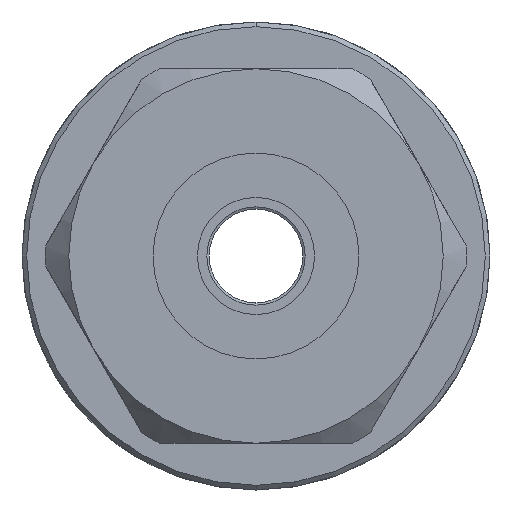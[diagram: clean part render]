
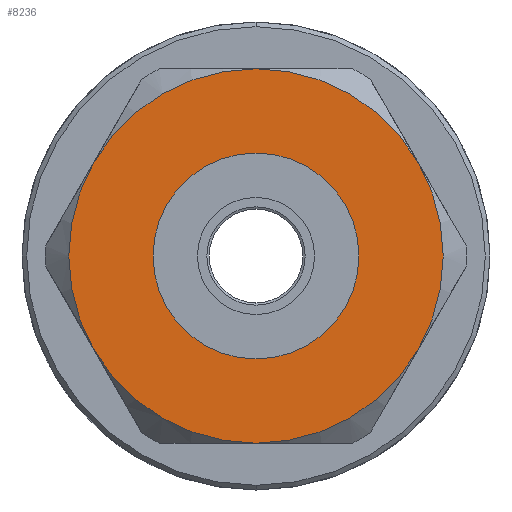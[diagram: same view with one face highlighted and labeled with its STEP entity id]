
A CAD part, front view. The second image highlights one B-rep face of the part: STEP entity #8236.
In plain terms, the highlighted planar face has unit normal (0, -1, 0).
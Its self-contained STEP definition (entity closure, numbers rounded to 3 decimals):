
#171 = CIRCLE ( 'NONE', #16684, 8. ) ;
#236 = DIRECTION ( 'NONE',  ( 0., -1., 0. ) ) ;
#291 = ORIENTED_EDGE ( 'NONE', *, *, #15133, .T. ) ;
#681 = CIRCLE ( 'NONE', #9216, 8. ) ;
#872 = DIRECTION ( 'NONE',  ( 0., 0., 1. ) ) ;
#1163 = DIRECTION ( 'NONE',  ( 0., 0., 1. ) ) ;
#1170 = FACE_OUTER_BOUND ( 'NONE', #14504, .T. ) ;
#1260 = CARTESIAN_POINT ( 'NONE',  ( -5.282, -46.88, 50. ) ) ;
#1342 = CIRCLE ( 'NONE', #10341, 8. ) ;
#1483 = EDGE_CURVE ( 'NONE', #13986, #3708, #13535, .T. ) ;
#1577 = CARTESIAN_POINT ( 'NONE',  ( -5.282, -46.88, 50. ) ) ;
#2470 = AXIS2_PLACEMENT_3D ( 'NONE', #1260, #10452, #2579 ) ;
#2579 = DIRECTION ( 'NONE',  ( -1., 0., 0. ) ) ;
#2887 = DIRECTION ( 'NONE',  ( 0., 0., 1. ) ) ;
#2897 = EDGE_CURVE ( 'NONE', #8539, #12407, #1342, .T. ) ;
#3283 = ORIENTED_EDGE ( 'NONE', *, *, #1483, .T. ) ;
#3318 = EDGE_CURVE ( 'NONE', #3708, #6361, #681, .T. ) ;
#3543 = DIRECTION ( 'NONE',  ( 0., -1., 0. ) ) ;
#3708 = VERTEX_POINT ( 'NONE', #15541 ) ;
#3734 = CIRCLE ( 'NONE', #8689, 8. ) ;
#4257 = AXIS2_PLACEMENT_3D ( 'NONE', #1577, #10759, #2887 ) ;
#5485 = EDGE_CURVE ( 'NONE', #10664, #6758, #15739, .T. ) ;
#5500 = CARTESIAN_POINT ( 'NONE',  ( -5.282, -46.88, 50. ) ) ;
#5610 = CARTESIAN_POINT ( 'NONE',  ( -0.882, -46.88, 50. ) ) ;
#5822 = CARTESIAN_POINT ( 'NONE',  ( -5.282, -46.88, 42. ) ) ;
#5908 = CARTESIAN_POINT ( 'NONE',  ( 1.647, -46.88, 54. ) ) ;
#6068 = DIRECTION ( 'NONE',  ( 0., -1., 0. ) ) ;
#6361 = VERTEX_POINT ( 'NONE', #12790 ) ;
#6421 = AXIS2_PLACEMENT_3D ( 'NONE', #7864, #17062, #9173 ) ;
#6439 = CARTESIAN_POINT ( 'NONE',  ( -5.282, -46.88, 58. ) ) ;
#6520 = ORIENTED_EDGE ( 'NONE', *, *, #2897, .T. ) ;
#6758 = VERTEX_POINT ( 'NONE', #5610 ) ;
#6760 = CIRCLE ( 'NONE', #2470, 4.4 ) ;
#6833 = DIRECTION ( 'NONE',  ( 0., 0., 1. ) ) ;
#7382 = EDGE_CURVE ( 'NONE', #6758, #10664, #6760, .T. ) ;
#7718 = CIRCLE ( 'NONE', #13903, 8. ) ;
#7781 = CARTESIAN_POINT ( 'NONE',  ( -9.682, -46.88, 50. ) ) ;
#7864 = CARTESIAN_POINT ( 'NONE',  ( -5.282, -46.88, 50. ) ) ;
#8109 = CARTESIAN_POINT ( 'NONE',  ( -5.282, -46.88, 50. ) ) ;
#8236 = ADVANCED_FACE ( 'NONE', ( #14765, #1170 ), #16610, .T. ) ;
#8539 = VERTEX_POINT ( 'NONE', #5822 ) ;
#8689 = AXIS2_PLACEMENT_3D ( 'NONE', #13973, #6068, #15280 ) ;
#8723 = DIRECTION ( 'NONE',  ( 0., -1., 0. ) ) ;
#9030 = DIRECTION ( 'NONE',  ( 0., -1., 0. ) ) ;
#9171 = EDGE_CURVE ( 'NONE', #13238, #13986, #7718, .T. ) ;
#9173 = DIRECTION ( 'NONE',  ( -1., 0., 0. ) ) ;
#9216 = AXIS2_PLACEMENT_3D ( 'NONE', #5500, #14732, #6833 ) ;
#9427 = DIRECTION ( 'NONE',  ( 0., 0., 1. ) ) ;
#10341 = AXIS2_PLACEMENT_3D ( 'NONE', #16635, #8723, #872 ) ;
#10452 = DIRECTION ( 'NONE',  ( 0., 1., 0. ) ) ;
#10453 = EDGE_LOOP ( 'NONE', ( #13285, #14046 ) ) ;
#10664 = VERTEX_POINT ( 'NONE', #7781 ) ;
#10759 = DIRECTION ( 'NONE',  ( 0., -1., 0. ) ) ;
#11332 = CARTESIAN_POINT ( 'NONE',  ( 1.647, -46.88, 46. ) ) ;
#11418 = CARTESIAN_POINT ( 'NONE',  ( -13.378, -46.88, 58.096 ) ) ;
#11652 = ORIENTED_EDGE ( 'NONE', *, *, #3318, .T. ) ;
#12407 = VERTEX_POINT ( 'NONE', #11332 ) ;
#12759 = DIRECTION ( 'NONE',  ( 0., 0., -1. ) ) ;
#12790 = CARTESIAN_POINT ( 'NONE',  ( -12.21, -46.88, 46. ) ) ;
#13238 = VERTEX_POINT ( 'NONE', #5908 ) ;
#13285 = ORIENTED_EDGE ( 'NONE', *, *, #5485, .T. ) ;
#13398 = ORIENTED_EDGE ( 'NONE', *, *, #13593, .T. ) ;
#13535 = CIRCLE ( 'NONE', #4257, 8. ) ;
#13593 = EDGE_CURVE ( 'NONE', #6361, #8539, #3734, .T. ) ;
#13903 = AXIS2_PLACEMENT_3D ( 'NONE', #8109, #236, #9427 ) ;
#13973 = CARTESIAN_POINT ( 'NONE',  ( -5.282, -46.88, 50. ) ) ;
#13986 = VERTEX_POINT ( 'NONE', #6439 ) ;
#14046 = ORIENTED_EDGE ( 'NONE', *, *, #7382, .T. ) ;
#14434 = AXIS2_PLACEMENT_3D ( 'NONE', #11418, #3543, #12759 ) ;
#14504 = EDGE_LOOP ( 'NONE', ( #291, #16665, #3283, #11652, #13398, #6520 ) ) ;
#14732 = DIRECTION ( 'NONE',  ( 0., -1., 0. ) ) ;
#14765 = FACE_BOUND ( 'NONE', #10453, .T. ) ;
#15133 = EDGE_CURVE ( 'NONE', #12407, #13238, #171, .T. ) ;
#15280 = DIRECTION ( 'NONE',  ( 0., 0., 1. ) ) ;
#15541 = CARTESIAN_POINT ( 'NONE',  ( -12.21, -46.88, 54. ) ) ;
#15739 = CIRCLE ( 'NONE', #6421, 4.4 ) ;
#16610 = PLANE ( 'NONE',  #14434 ) ;
#16635 = CARTESIAN_POINT ( 'NONE',  ( -5.282, -46.88, 50. ) ) ;
#16665 = ORIENTED_EDGE ( 'NONE', *, *, #9171, .T. ) ;
#16684 = AXIS2_PLACEMENT_3D ( 'NONE', #16937, #9030, #1163 ) ;
#16937 = CARTESIAN_POINT ( 'NONE',  ( -5.282, -46.88, 50. ) ) ;
#17062 = DIRECTION ( 'NONE',  ( 0., 1., 0. ) ) ;
